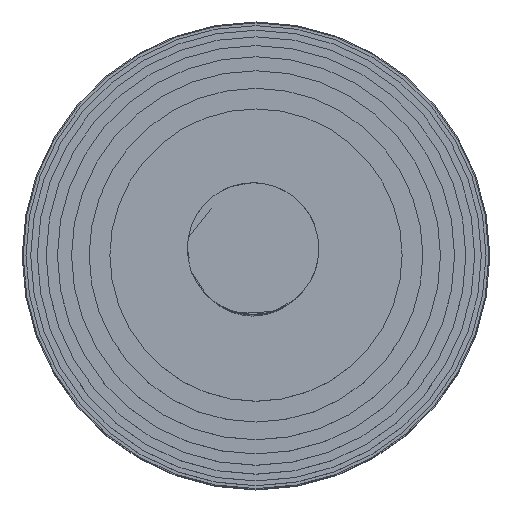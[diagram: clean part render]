
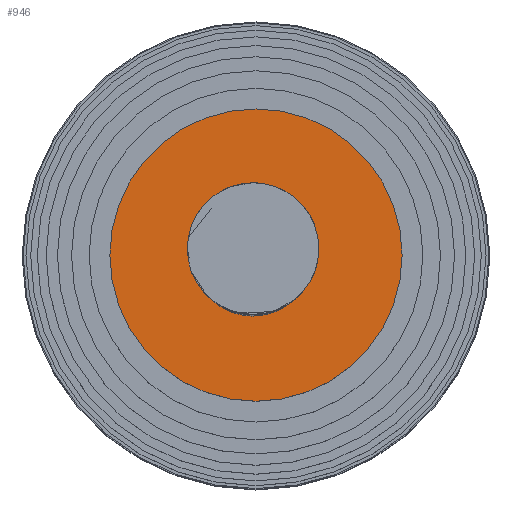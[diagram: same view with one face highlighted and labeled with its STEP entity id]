
A CAD part, top view. The second image highlights one B-rep face of the part: STEP entity #946.
In plain terms, the highlighted planar face has unit normal (0, 0, 1).
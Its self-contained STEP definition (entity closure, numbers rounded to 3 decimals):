
#217=FACE_OUTER_BOUND('',#297,.T.);
#297=EDGE_LOOP('',(#686));
#370=CIRCLE('',#1048,25.);
#442=VERTEX_POINT('',#4351);
#527=EDGE_CURVE('',#442,#442,#370,.T.);
#686=ORIENTED_EDGE('',*,*,#527,.F.);
#902=PLANE('',#1047);
#946=ADVANCED_FACE('',(#217),#902,.F.);
#1047=AXIS2_PLACEMENT_3D('',#4350,#1228,#1229);
#1048=AXIS2_PLACEMENT_3D('',#4352,#1230,#1231);
#1228=DIRECTION('center_axis',(0.,0.,
-1.));
#1229=DIRECTION('ref_axis',(-1.,0.,0.));
#1230=DIRECTION('center_axis',(0.,0.,
-1.));
#1231=DIRECTION('ref_axis',(-1.,0.,0.));
#4350=CARTESIAN_POINT('Origin',(-2536.086,1998.258,148.786));
#4351=CARTESIAN_POINT('',(-2511.086,1998.258,148.786));
#4352=CARTESIAN_POINT('Origin',(-2536.086,1998.258,148.786));
